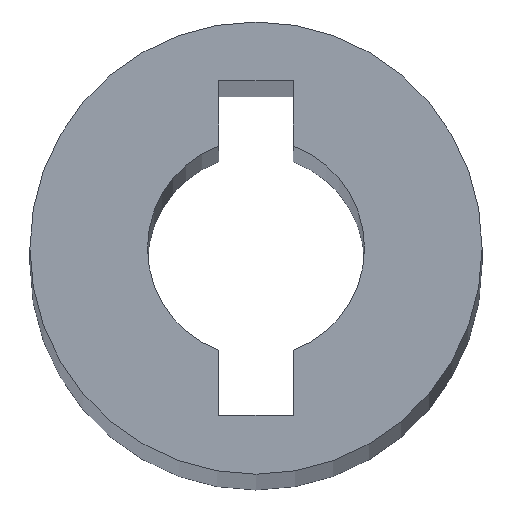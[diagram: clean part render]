
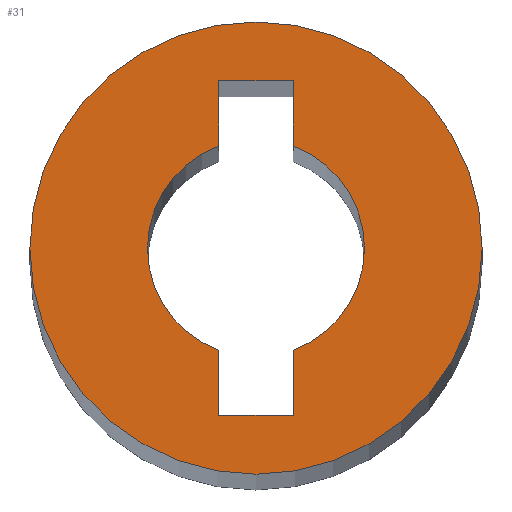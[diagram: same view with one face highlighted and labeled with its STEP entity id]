
A CAD part, top view. The second image highlights one B-rep face of the part: STEP entity #31.
In plain terms, the highlighted planar face has unit normal (0, 0, 1).
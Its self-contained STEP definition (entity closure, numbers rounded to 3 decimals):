
#3 = DIRECTION ( 'NONE',  ( 1., 0., 0. ) ) ;
#4 = EDGE_CURVE ( 'NONE', #253, #186, #12, .T. ) ;
#12 = LINE ( 'NONE', #13, #242 ) ;
#13 = CARTESIAN_POINT ( 'NONE',  ( -2.05, 9.25, 500. ) ) ;
#15 = AXIS2_PLACEMENT_3D ( 'NONE', #345, #94, #95 ) ;
#21 = DIRECTION ( 'NONE',  ( 0., 0., 1. ) ) ;
#22 = EDGE_CURVE ( 'NONE', #357, #276, #51, .T. ) ;
#25 = EDGE_CURVE ( 'NONE', #41, #359, #142, .T. ) ;
#26 = CARTESIAN_POINT ( 'NONE',  ( 12.5, 0., 500. ) ) ;
#29 = EDGE_CURVE ( 'NONE', #276, #41, #196, .T. ) ;
#31 = ADVANCED_FACE ( 'NONE', ( #413, #162 ), #193, .T. ) ;
#35 = ORIENTED_EDGE ( 'NONE', *, *, #264, .F. ) ;
#41 = VERTEX_POINT ( 'NONE', #298 ) ;
#43 = DIRECTION ( 'NONE',  ( 1., 0., 0. ) ) ;
#51 = CIRCLE ( 'NONE', #389, 6. ) ;
#57 = CARTESIAN_POINT ( 'NONE',  ( 2.05, -5.639, 500. ) ) ;
#58 = AXIS2_PLACEMENT_3D ( 'NONE', #318, #132, #3 ) ;
#60 = LINE ( 'NONE', #69, #195 ) ;
#68 = DIRECTION ( 'NONE',  ( 0., -1., 0. ) ) ;
#69 = CARTESIAN_POINT ( 'NONE',  ( -2.05, -9.25, 500. ) ) ;
#70 = EDGE_CURVE ( 'NONE', #249, #306, #371, .T. ) ;
#73 = CIRCLE ( 'NONE', #15, 6. ) ;
#79 = ORIENTED_EDGE ( 'NONE', *, *, #125, .F. ) ;
#80 = DIRECTION ( 'NONE',  ( -1., 0., 0. ) ) ;
#83 = DIRECTION ( 'NONE',  ( 0., -1., 0. ) ) ;
#84 = DIRECTION ( 'NONE',  ( 1., 0., 0. ) ) ;
#94 = DIRECTION ( 'NONE',  ( 0., 0., 1. ) ) ;
#95 = DIRECTION ( 'NONE',  ( 1., 0., 0. ) ) ;
#97 = CARTESIAN_POINT ( 'NONE',  ( -2.05, -9.25, 500. ) ) ;
#98 = AXIS2_PLACEMENT_3D ( 'NONE', #190, #21, #84 ) ;
#101 = DIRECTION ( 'NONE',  ( 0., 1., 0. ) ) ;
#113 = EDGE_LOOP ( 'NONE', ( #445, #148 ) ) ;
#114 = LINE ( 'NONE', #376, #316 ) ;
#125 = EDGE_CURVE ( 'NONE', #323, #253, #114, .T. ) ;
#132 = DIRECTION ( 'NONE',  ( 0., 0., 1. ) ) ;
#142 = LINE ( 'NONE', #232, #185 ) ;
#145 = VECTOR ( 'NONE', #101, 1000. ) ;
#147 = VERTEX_POINT ( 'NONE', #57 ) ;
#148 = ORIENTED_EDGE ( 'NONE', *, *, #70, .T. ) ;
#157 = CARTESIAN_POINT ( 'NONE',  ( 0., 0., 500. ) ) ;
#159 = CARTESIAN_POINT ( 'NONE',  ( 0., 0., 500. ) ) ;
#161 = CIRCLE ( 'NONE', #58, 12.5 ) ;
#162 = FACE_BOUND ( 'NONE', #436, .T. ) ;
#172 = LINE ( 'NONE', #275, #386 ) ;
#182 = ORIENTED_EDGE ( 'NONE', *, *, #329, .F. ) ;
#185 = VECTOR ( 'NONE', #83, 1000. ) ;
#186 = VERTEX_POINT ( 'NONE', #343 ) ;
#188 = EDGE_CURVE ( 'NONE', #147, #323, #73, .T. ) ;
#190 = CARTESIAN_POINT ( 'NONE',  ( 0., 0., 500. ) ) ;
#193 = PLANE ( 'NONE',  #98 ) ;
#195 = VECTOR ( 'NONE', #317, 1000. ) ;
#196 = CIRCLE ( 'NONE', #354, 6. ) ;
#232 = CARTESIAN_POINT ( 'NONE',  ( -2.05, -5.639, 500. ) ) ;
#240 = ORIENTED_EDGE ( 'NONE', *, *, #362, .F. ) ;
#242 = VECTOR ( 'NONE', #80, 1000. ) ;
#244 = CARTESIAN_POINT ( 'NONE',  ( 2.05, -9.25, 500. ) ) ;
#249 = VERTEX_POINT ( 'NONE', #26 ) ;
#253 = VERTEX_POINT ( 'NONE', #339 ) ;
#264 = EDGE_CURVE ( 'NONE', #186, #357, #172, .T. ) ;
#267 = ORIENTED_EDGE ( 'NONE', *, *, #29, .F. ) ;
#270 = AXIS2_PLACEMENT_3D ( 'NONE', #401, #301, #43 ) ;
#275 = CARTESIAN_POINT ( 'NONE',  ( -2.05, 9.25, 500. ) ) ;
#276 = VERTEX_POINT ( 'NONE', #287 ) ;
#284 = ORIENTED_EDGE ( 'NONE', *, *, #22, .F. ) ;
#285 = CARTESIAN_POINT ( 'NONE',  ( -12.5, 0., 500. ) ) ;
#287 = CARTESIAN_POINT ( 'NONE',  ( -6., 0., 500. ) ) ;
#298 = CARTESIAN_POINT ( 'NONE',  ( -2.05, -5.639, 500. ) ) ;
#301 = DIRECTION ( 'NONE',  ( 0., 0., 1. ) ) ;
#306 = VERTEX_POINT ( 'NONE', #285 ) ;
#316 = VECTOR ( 'NONE', #375, 1000. ) ;
#317 = DIRECTION ( 'NONE',  ( 1., 0., 0. ) ) ;
#318 = CARTESIAN_POINT ( 'NONE',  ( 0., 0., 500. ) ) ;
#323 = VERTEX_POINT ( 'NONE', #384 ) ;
#324 = EDGE_CURVE ( 'NONE', #306, #249, #161, .T. ) ;
#329 = EDGE_CURVE ( 'NONE', #359, #405, #60, .T. ) ;
#336 = DIRECTION ( 'NONE',  ( 1., 0., 0. ) ) ;
#339 = CARTESIAN_POINT ( 'NONE',  ( 2.05, 9.25, 500. ) ) ;
#343 = CARTESIAN_POINT ( 'NONE',  ( -2.05, 9.25, 500. ) ) ;
#345 = CARTESIAN_POINT ( 'NONE',  ( 0., 0., 500. ) ) ;
#354 = AXIS2_PLACEMENT_3D ( 'NONE', #157, #403, #365 ) ;
#357 = VERTEX_POINT ( 'NONE', #414 ) ;
#359 = VERTEX_POINT ( 'NONE', #97 ) ;
#362 = EDGE_CURVE ( 'NONE', #405, #147, #428, .T. ) ;
#365 = DIRECTION ( 'NONE',  ( 1., 0., 0. ) ) ;
#371 = CIRCLE ( 'NONE', #270, 12.5 ) ;
#375 = DIRECTION ( 'NONE',  ( 0., 1., 0. ) ) ;
#376 = CARTESIAN_POINT ( 'NONE',  ( 2.05, 9.25, 500. ) ) ;
#381 = ORIENTED_EDGE ( 'NONE', *, *, #188, .F. ) ;
#383 = CARTESIAN_POINT ( 'NONE',  ( 2.05, -5.639, 500. ) ) ;
#384 = CARTESIAN_POINT ( 'NONE',  ( 2.05, 5.639, 500. ) ) ;
#386 = VECTOR ( 'NONE', #68, 1000. ) ;
#389 = AXIS2_PLACEMENT_3D ( 'NONE', #159, #430, #336 ) ;
#390 = ORIENTED_EDGE ( 'NONE', *, *, #4, .F. ) ;
#401 = CARTESIAN_POINT ( 'NONE',  ( 0., 0., 500. ) ) ;
#403 = DIRECTION ( 'NONE',  ( 0., 0., 1. ) ) ;
#405 = VERTEX_POINT ( 'NONE', #244 ) ;
#413 = FACE_OUTER_BOUND ( 'NONE', #113, .T. ) ;
#414 = CARTESIAN_POINT ( 'NONE',  ( -2.05, 5.639, 500. ) ) ;
#428 = LINE ( 'NONE', #383, #145 ) ;
#430 = DIRECTION ( 'NONE',  ( 0., 0., 1. ) ) ;
#436 = EDGE_LOOP ( 'NONE', ( #79, #381, #240, #182, #437, #267, #284, #35, #390 ) ) ;
#437 = ORIENTED_EDGE ( 'NONE', *, *, #25, .F. ) ;
#445 = ORIENTED_EDGE ( 'NONE', *, *, #324, .T. ) ;
